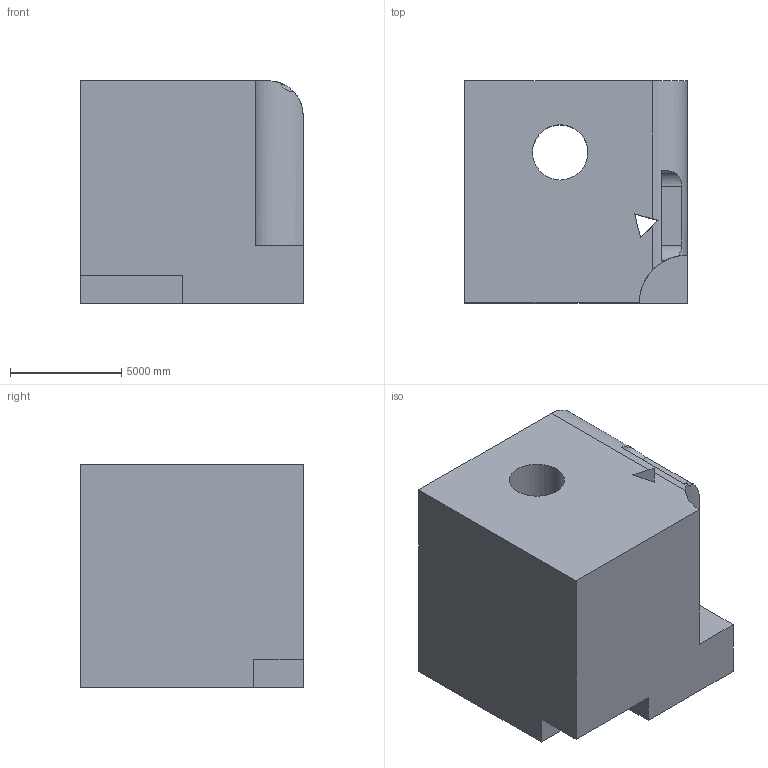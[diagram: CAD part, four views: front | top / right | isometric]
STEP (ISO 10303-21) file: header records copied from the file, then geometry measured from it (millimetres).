
FILE_DESCRIPTION (( 'STEP AP203' ), '1' );
FILE_NAME ('126.STEP', '2022-08-31T14:20:34', ( 'user' ), ( '' ), 'SwSTEP 2.0', 'SolidWorks 2021', '' );
FILE_SCHEMA (( 'CONFIG_CONTROL_DESIGN' ));
Length unit declared in the file: centimetre
Products named in the file (1): 126
Bounding box: 10000 x 10000 x 10000 mm (x, y, z)
Volume: 886100682049.1 mm3; surface area: 712689635.4 mm2
Topology: 1 solids, 1 shells, 24 faces, 69 edges, 46 vertices
Faces by surface type: plane 16, cylinder 8
Entity records: 1137 total; most frequent: CARTESIAN_POINT 428, ORIENTED_EDGE 138, DIRECTION 122, EDGE_CURVE 69, VERTEX_POINT 46, LINE 46, VECTOR 46, AXIS2_PLACEMENT_3D 38
